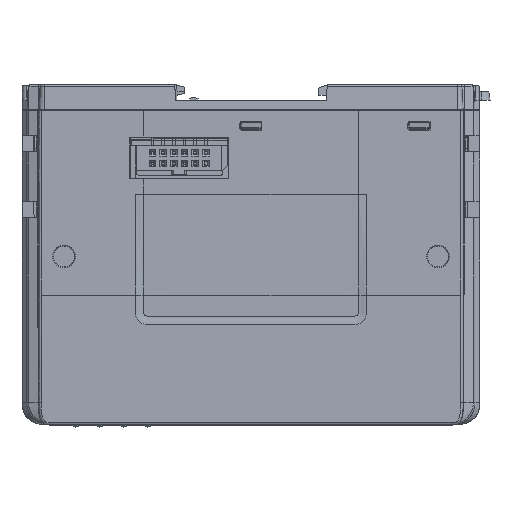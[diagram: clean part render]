
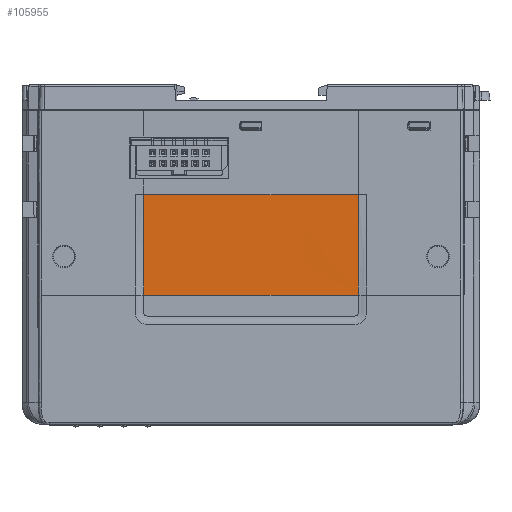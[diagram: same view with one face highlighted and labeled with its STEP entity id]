
A CAD part, top view. The second image highlights one B-rep face of the part: STEP entity #105955.
In plain terms, the highlighted free-form (B-spline) face has degree [3, 3] with [7, 4] control points.
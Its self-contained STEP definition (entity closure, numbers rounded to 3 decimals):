
#14824 = CARTESIAN_POINT ( 'NONE',  ( 25.537, -43.918, 13.2 ) ) ;
#20689 = CARTESIAN_POINT ( 'NONE',  ( -25.537, -43.918, 13.2 ) ) ;
#20691 = CARTESIAN_POINT ( 'NONE',  ( -25.537, -39.932, 13.2 ) ) ;
#20730 = CARTESIAN_POINT ( 'NONE',  ( -25.537, -31.959, 13.35 ) ) ;
#20732 = CARTESIAN_POINT ( 'NONE',  ( -25.537, -23.987, 13.5 ) ) ;
#20734 = CARTESIAN_POINT ( 'NONE',  ( -25.537, -20., 13.5 ) ) ;
#20738 = LINE ( 'NONE', #20743, #77665 ) ;
#20743 = CARTESIAN_POINT ( 'NONE',  ( -48., -20., 13.5 ) ) ;
#20746 = DIRECTION ( 'NONE',  ( 1., 0., 0. ) ) ;
#20748 = LINE ( 'NONE', #20752, #77650 ) ;
#20752 = CARTESIAN_POINT ( 'NONE',  ( 0., -43.918, 13.2 ) ) ;
#20754 = DIRECTION ( 'NONE',  ( 1., 0., 0. ) ) ;
#21108 = CARTESIAN_POINT ( 'NONE',  ( 25.537, -35.945, 13.2 ) ) ;
#21131 = CARTESIAN_POINT ( 'NONE',  ( 25.537, -43.918, 13.2 ) ) ;
#21140 = CARTESIAN_POINT ( 'NONE',  ( 25.537, -27.973, 13.5 ) ) ;
#21141 = CARTESIAN_POINT ( 'NONE',  ( 25.537, -20., 13.5 ) ) ;
#27060 = ORIENTED_EDGE ( 'NONE', *, *, #104545, .T. ) ;
#27061 = ORIENTED_EDGE ( 'NONE', *, *, #104577, .T. ) ;
#27062 = ORIENTED_EDGE ( 'NONE', *, *, #104544, .F. ) ;
#27063 = ORIENTED_EDGE ( 'NONE', *, *, #104542, .F. ) ;
#32885 = EDGE_LOOP ( 'NONE', ( #27060, #27061, #27062, #27063 ) ) ;
#47647 = VERTEX_POINT ( 'NONE', #14824 ) ;
#48699 = B_SPLINE_SURFACE_WITH_KNOTS ( 'NONE', 3, 3, ( 
 ( #92634, #92626, #92639, #92640 ),
 ( #92642, #92644, #92646, #92648 ),
 ( #92650, #92651, #92652, #92654 ),
 ( #92656, #92658, #92660, #92662 ),
 ( #92664, #92665, #92666, #92668 ),
 ( #92669, #92670, #92672, #92674 ),
 ( #92676, #92678, #92679, #92680 ) ),
 .UNSPECIFIED., .F., .F., .F.,
 ( 4, 1, 1, 1, 4 ),
 ( 4, 4 ),
 ( 0., 0.25, 0.5, 0.75, 1. ),
 ( 0., 1. ),
 .UNSPECIFIED. ) ;
#52844 = VERTEX_POINT ( 'NONE', #57817 ) ;
#55132 = VERTEX_POINT ( 'NONE', #72490 ) ;
#55368 = VERTEX_POINT ( 'NONE', #72738 ) ;
#57817 = CARTESIAN_POINT ( 'NONE',  ( -25.537, -43.918, 13.2 ) ) ;
#72490 = CARTESIAN_POINT ( 'NONE',  ( 25.537, -20., 13.5 ) ) ;
#72738 = CARTESIAN_POINT ( 'NONE',  ( -25.537, -20., 13.5 ) ) ;
#77650 = VECTOR ( 'NONE', #20754, 1000. ) ;
#77665 = VECTOR ( 'NONE', #20746, 1000. ) ;
#92626 = CARTESIAN_POINT ( 'NONE',  ( -25.537, -35.945, 13.2 ) ) ;
#92632 = FACE_OUTER_BOUND ( 'NONE', #32885, .T. ) ;
#92634 = CARTESIAN_POINT ( 'NONE',  ( -25.537, -43.918, 13.2 ) ) ;
#92639 = CARTESIAN_POINT ( 'NONE',  ( -25.537, -27.973, 13.5 ) ) ;
#92640 = CARTESIAN_POINT ( 'NONE',  ( -25.537, -20., 13.5 ) ) ;
#92642 = CARTESIAN_POINT ( 'NONE',  ( -21.28, -43.918, 13.2 ) ) ;
#92644 = CARTESIAN_POINT ( 'NONE',  ( -21.28, -35.945, 13.2 ) ) ;
#92646 = CARTESIAN_POINT ( 'NONE',  ( -21.28, -27.973, 13.5 ) ) ;
#92648 = CARTESIAN_POINT ( 'NONE',  ( -21.28, -20., 13.5 ) ) ;
#92650 = CARTESIAN_POINT ( 'NONE',  ( -12.768, -43.918, 13.2 ) ) ;
#92651 = CARTESIAN_POINT ( 'NONE',  ( -12.768, -35.945, 13.2 ) ) ;
#92652 = CARTESIAN_POINT ( 'NONE',  ( -12.768, -27.973, 13.5 ) ) ;
#92654 = CARTESIAN_POINT ( 'NONE',  ( -12.768, -20., 13.5 ) ) ;
#92656 = CARTESIAN_POINT ( 'NONE',  ( 0., -43.918, 13.2 ) ) ;
#92658 = CARTESIAN_POINT ( 'NONE',  ( 0., -35.945, 13.2 ) ) ;
#92660 = CARTESIAN_POINT ( 'NONE',  ( 0., -27.973, 13.5 ) ) ;
#92662 = CARTESIAN_POINT ( 'NONE',  ( 0., -20., 13.5 ) ) ;
#92664 = CARTESIAN_POINT ( 'NONE',  ( 12.768, -43.918, 13.2 ) ) ;
#92665 = CARTESIAN_POINT ( 'NONE',  ( 12.768, -35.945, 13.2 ) ) ;
#92666 = CARTESIAN_POINT ( 'NONE',  ( 12.768, -27.973, 13.5 ) ) ;
#92668 = CARTESIAN_POINT ( 'NONE',  ( 12.768, -20., 13.5 ) ) ;
#92669 = CARTESIAN_POINT ( 'NONE',  ( 21.28, -43.918, 13.2 ) ) ;
#92670 = CARTESIAN_POINT ( 'NONE',  ( 21.28, -35.945, 13.2 ) ) ;
#92672 = CARTESIAN_POINT ( 'NONE',  ( 21.28, -27.973, 13.5 ) ) ;
#92674 = CARTESIAN_POINT ( 'NONE',  ( 21.28, -20., 13.5 ) ) ;
#92676 = CARTESIAN_POINT ( 'NONE',  ( 25.537, -43.918, 13.2 ) ) ;
#92678 = CARTESIAN_POINT ( 'NONE',  ( 25.537, -35.945, 13.2 ) ) ;
#92679 = CARTESIAN_POINT ( 'NONE',  ( 25.537, -27.973, 13.5 ) ) ;
#92680 = CARTESIAN_POINT ( 'NONE',  ( 25.537, -20., 13.5 ) ) ;
#98417 = B_SPLINE_CURVE_WITH_KNOTS ( 'NONE', 3,
 ( #20689, #20691, #20730, #20732, #20734 ),
 .UNSPECIFIED., .F., .F.,
 ( 4, 1, 4 ),
 ( 0., 0.5, 1. ),
 .UNSPECIFIED. ) ;
#98452 = B_SPLINE_CURVE_WITH_KNOTS ( 'NONE', 3,
 ( #21131, #21108, #21140, #21141 ),
 .UNSPECIFIED., .F., .F.,
 ( 4, 4 ),
 ( 0., 1. ),
 .UNSPECIFIED. ) ;
#104542 = EDGE_CURVE ( 'NONE', #52844, #55368, #98417, .T. ) ;
#104544 = EDGE_CURVE ( 'NONE', #55368, #55132, #20738, .T. ) ;
#104545 = EDGE_CURVE ( 'NONE', #52844, #47647, #20748, .T. ) ;
#104577 = EDGE_CURVE ( 'NONE', #47647, #55132, #98452, .T. ) ;
#105955 = ADVANCED_FACE ( 'NONE', ( #92632 ), #48699, .T. ) ;
